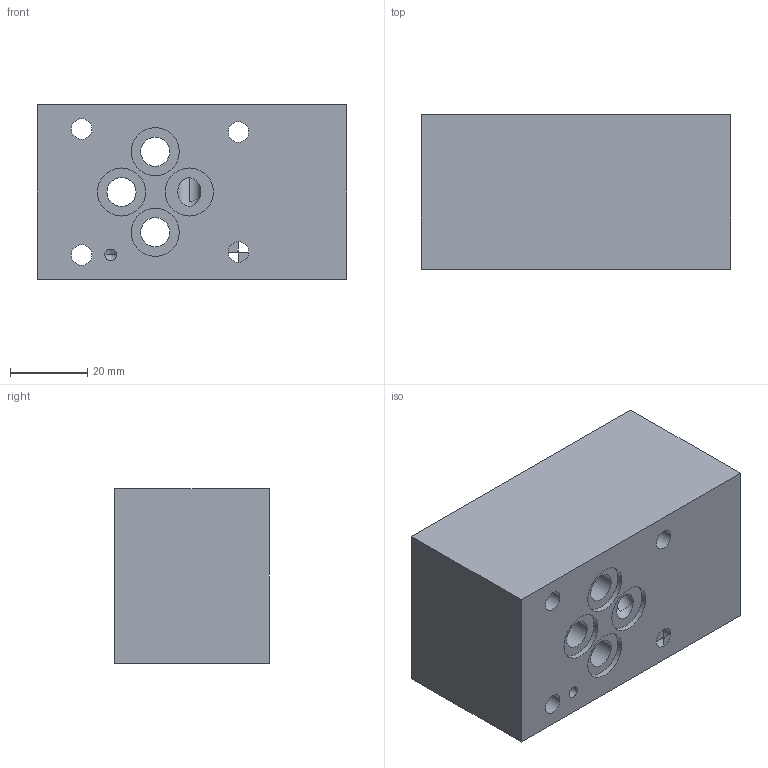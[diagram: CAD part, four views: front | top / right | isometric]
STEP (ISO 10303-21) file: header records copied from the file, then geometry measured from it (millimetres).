
FILE_DESCRIPTION((''),'2;1');
FILE_NAME('20692600','2023-10-12T',('l.soukupova'),(''),'PRO/ENGINEER BY PARAMETRIC TECHNOLOGY CORPORATION, 2015440','PRO/ENGINEER BY PARAMETRIC TECHNOLOGY CORPORATION, 2015440','');
FILE_SCHEMA(('AUTOMOTIVE_DESIGN { 1 0 10303 214 1 1 1 1 }'));
Length unit declared in the file: millimetre
Products named in the file (1): 20692600
Bounding box: 80 x 40 x 45 mm (x, y, z)
Volume: 120620.4 mm3; surface area: 27202.5 mm2
Topology: 1 solids, 4 shells, 97 faces, 382 edges, 351 vertices
Faces by surface type: cylinder 54, cone 29, plane 14
Entity records: 6307 total; most frequent: CARTESIAN_POINT 1391, DIRECTION 696, ORIENTED_EDGE 464, PRESENTATION_STYLE_ASSIGNMENT 457, STYLED_ITEM 419, CURVE_STYLE 416, AXIS2_PLACEMENT_3D 248, EDGE_CURVE 238
